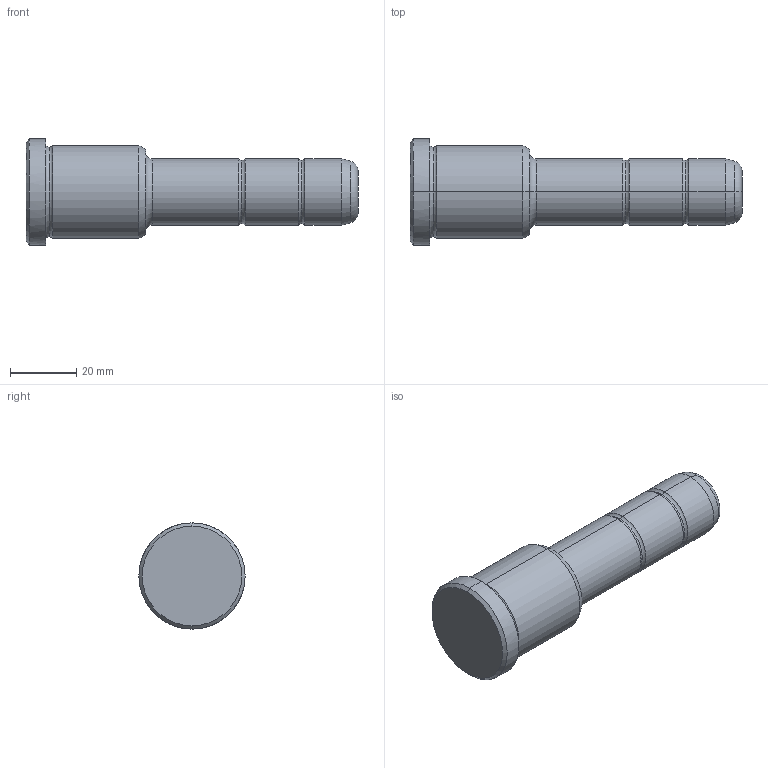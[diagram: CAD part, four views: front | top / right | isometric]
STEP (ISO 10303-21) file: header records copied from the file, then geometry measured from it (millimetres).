
FILE_DESCRIPTION(('CATIA V5 STEP Exchange'),'2;1');
FILE_NAME('C:\Users\Utente\Desktop\IO LAVORO\3D X SITO CF\X SITO\PLASTICA\351\351-20X36X100.stp','2021-08-27T12:25:20+00:00',('none'),('none'),'CATIA Version 5 Release 20 GA (IN-10)','CATIA V5 STEP AP203','none');
FILE_SCHEMA(('CONFIG_CONTROL_DESIGN'));
Length unit declared in the file: millimetre
Products named in the file (1): 351-20X36X100
Bounding box: 100 x 32 x 32 mm (x, y, z)
Volume: 42912 mm3; surface area: 8606 mm2
Topology: 1 solids, 1 shells, 36 faces, 102 edges, 70 vertices
Faces by surface type: torus 16, cylinder 10, cone 6, plane 4
Entity records: 1292 total; most frequent: CARTESIAN_POINT 321, ORIENTED_EDGE 204, DIRECTION 166, AXIS2_PLACEMENT_3D 115, EDGE_CURVE 102, CIRCLE 78, VERTEX_POINT 70, EDGE_LOOP 38
